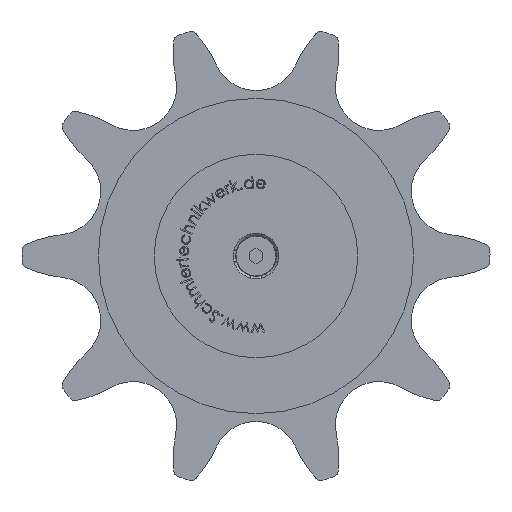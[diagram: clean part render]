
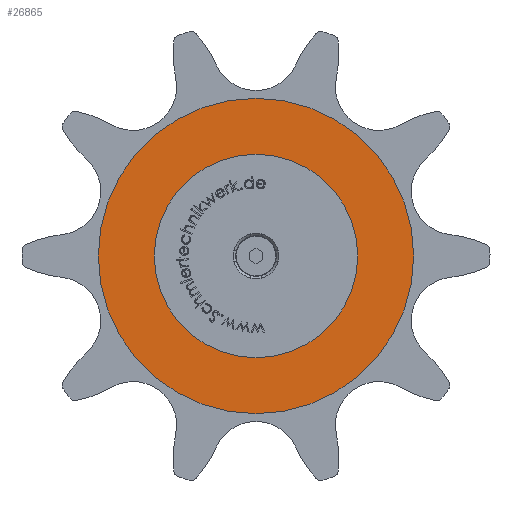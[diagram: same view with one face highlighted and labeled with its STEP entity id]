
A CAD part, front view. The second image highlights one B-rep face of the part: STEP entity #26865.
In plain terms, the highlighted planar face has unit normal (0, 1, 0).
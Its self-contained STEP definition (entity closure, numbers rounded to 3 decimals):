
#140 = DIRECTION ( 'NONE',  ( 0., 1., 0. ) ) ;
#718 = ORIENTED_EDGE ( 'NONE', *, *, #23506, .T. ) ;
#3008 = CARTESIAN_POINT ( 'NONE',  ( 0., -60.7, 0. ) ) ;
#3117 = FACE_BOUND ( 'NONE', #20852, .T. ) ;
#3807 = DIRECTION ( 'NONE',  ( 0., 1., 0. ) ) ;
#4138 = AXIS2_PLACEMENT_3D ( 'NONE', #10307, #140, #20870 ) ;
#5479 = CIRCLE ( 'NONE', #21045, 14. ) ;
#6037 = CARTESIAN_POINT ( 'NONE',  ( 0., -60.7, 14. ) ) ;
#8999 = CIRCLE ( 'NONE', #4138, 46.5 ) ;
#10204 = DIRECTION ( 'NONE',  ( 0., 0., 1. ) ) ;
#10307 = CARTESIAN_POINT ( 'NONE',  ( 0., -60.7, 0. ) ) ;
#10980 = EDGE_LOOP ( 'NONE', ( #27049 ) ) ;
#11496 = DIRECTION ( 'NONE',  ( 0., 0., -1. ) ) ;
#11886 = AXIS2_PLACEMENT_3D ( 'NONE', #6037, #3807, #10204 ) ;
#12454 = VERTEX_POINT ( 'NONE', #21073 ) ;
#20079 = CARTESIAN_POINT ( 'NONE',  ( 0., -60.7, 46.5 ) ) ;
#20852 = EDGE_LOOP ( 'NONE', ( #718 ) ) ;
#20870 = DIRECTION ( 'NONE',  ( 0., 0., 1. ) ) ;
#21045 = AXIS2_PLACEMENT_3D ( 'NONE', #3008, #24389, #11496 ) ;
#21073 = CARTESIAN_POINT ( 'NONE',  ( 0., -60.7, -14. ) ) ;
#22024 = VERTEX_POINT ( 'NONE', #20079 ) ;
#22714 = EDGE_CURVE ( 'NONE', #22024, #22024, #8999, .T. ) ;
#23506 = EDGE_CURVE ( 'NONE', #12454, #12454, #5479, .T. ) ;
#24389 = DIRECTION ( 'NONE',  ( 0., -1., 0. ) ) ;
#24509 = PLANE ( 'NONE',  #11886 ) ;
#26581 = FACE_OUTER_BOUND ( 'NONE', #10980, .T. ) ;
#26865 = ADVANCED_FACE ( 'NONE', ( #3117, #26581 ), #24509, .T. ) ;
#27049 = ORIENTED_EDGE ( 'NONE', *, *, #22714, .T. ) ;
